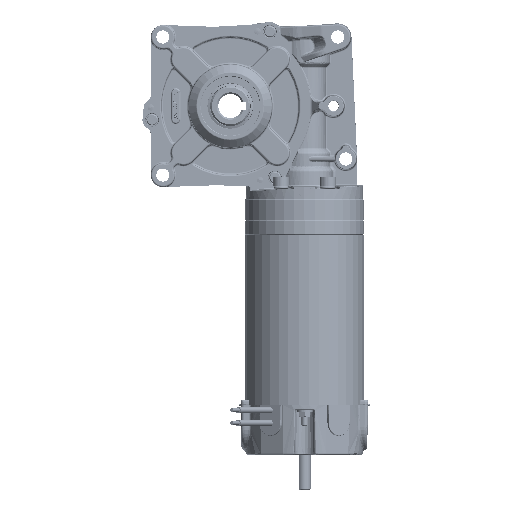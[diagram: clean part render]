
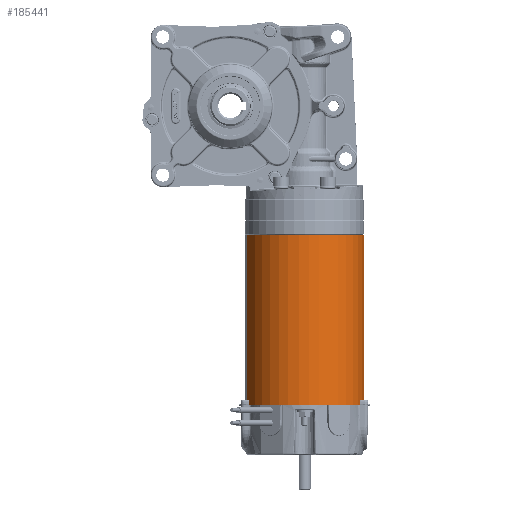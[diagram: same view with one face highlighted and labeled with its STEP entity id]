
A CAD part, left-side view. The second image highlights one B-rep face of the part: STEP entity #185441.
In plain terms, the highlighted cylindrical face has radius 37.15 mm (diameter 74.3 mm), a partial arc.
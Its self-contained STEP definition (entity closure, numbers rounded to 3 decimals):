
#4757 = ORIENTED_EDGE ( 'NONE', *, *, #104305, .F. ) ;
#26999 = CIRCLE ( 'NONE', #184629, 37.15 ) ;
#33557 = VECTOR ( 'NONE', #177616, 1000. ) ;
#38728 = AXIS2_PLACEMENT_3D ( 'NONE', #138460, #204708, #134020 ) ;
#46844 = EDGE_LOOP ( 'NONE', ( #4757, #190376, #77015, #186682 ) ) ;
#52609 = EDGE_CURVE ( 'NONE', #135208, #120928, #111453, .T. ) ;
#58663 = LINE ( 'NONE', #175414, #33557 ) ;
#64330 = DIRECTION ( 'NONE',  ( 0., 0., -1. ) ) ;
#77015 = ORIENTED_EDGE ( 'NONE', *, *, #109948, .T. ) ;
#85032 = DIRECTION ( 'NONE',  ( 0., 0., 1. ) ) ;
#92893 = EDGE_CURVE ( 'NONE', #130937, #194182, #58663, .T. ) ;
#95734 = CARTESIAN_POINT ( 'NONE',  ( -117.461, -96.24, 19.684 ) ) ;
#104305 = EDGE_CURVE ( 'NONE', #135208, #130937, #26999, .T. ) ;
#109948 = EDGE_CURVE ( 'NONE', #120928, #194182, #132520, .T. ) ;
#111453 = LINE ( 'NONE', #198924, #185330 ) ;
#120928 = VERTEX_POINT ( 'NONE', #145606 ) ;
#130937 = VERTEX_POINT ( 'NONE', #95734 ) ;
#132520 = CIRCLE ( 'NONE', #200631, 37.15 ) ;
#134020 = DIRECTION ( 'NONE',  ( 0.252, -0.968, 0. ) ) ;
#135208 = VERTEX_POINT ( 'NONE', #208403 ) ;
#137340 = FACE_OUTER_BOUND ( 'NONE', #46844, .T. ) ;
#138460 = CARTESIAN_POINT ( 'NONE',  ( -126.805, -60.285, 19.684 ) ) ;
#139880 = DIRECTION ( 'NONE',  ( -0.252, 0.968, 0. ) ) ;
#140276 = CARTESIAN_POINT ( 'NONE',  ( -126.805, -60.285, -86.316 ) ) ;
#141375 = DIRECTION ( 'NONE',  ( -0.252, 0.968, 0. ) ) ;
#145606 = CARTESIAN_POINT ( 'NONE',  ( -136.149, -24.329, -86.316 ) ) ;
#156719 = CARTESIAN_POINT ( 'NONE',  ( -126.805, -60.285, 19.684 ) ) ;
#175414 = CARTESIAN_POINT ( 'NONE',  ( -117.461, -96.24, 19.684 ) ) ;
#177616 = DIRECTION ( 'NONE',  ( 0., 0., -1. ) ) ;
#184629 = AXIS2_PLACEMENT_3D ( 'NONE', #156719, #85032, #139880 ) ;
#185330 = VECTOR ( 'NONE', #64330, 1000. ) ;
#185441 = ADVANCED_FACE ( 'NONE', ( #137340 ), #221516, .T. ) ;
#186682 = ORIENTED_EDGE ( 'NONE', *, *, #92893, .F. ) ;
#190376 = ORIENTED_EDGE ( 'NONE', *, *, #52609, .T. ) ;
#193053 = DIRECTION ( 'NONE',  ( 0., 0., 1. ) ) ;
#194182 = VERTEX_POINT ( 'NONE', #209968 ) ;
#198924 = CARTESIAN_POINT ( 'NONE',  ( -136.149, -24.329, 19.684 ) ) ;
#200631 = AXIS2_PLACEMENT_3D ( 'NONE', #140276, #193053, #141375 ) ;
#204708 = DIRECTION ( 'NONE',  ( 0., 0., -1. ) ) ;
#208403 = CARTESIAN_POINT ( 'NONE',  ( -136.149, -24.329, 19.684 ) ) ;
#209968 = CARTESIAN_POINT ( 'NONE',  ( -117.461, -96.24, -86.316 ) ) ;
#221516 = CYLINDRICAL_SURFACE ( 'NONE', #38728, 37.15 ) ;
